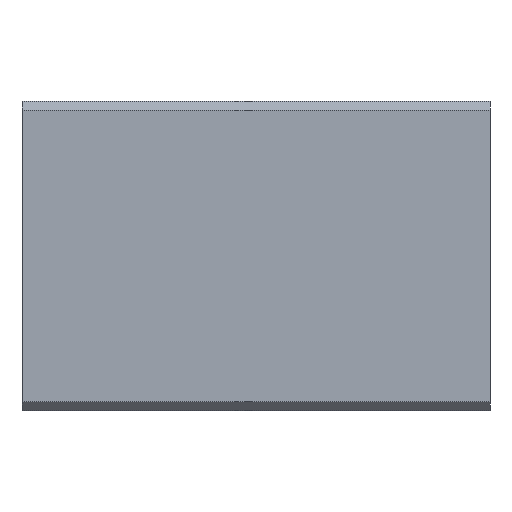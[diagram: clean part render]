
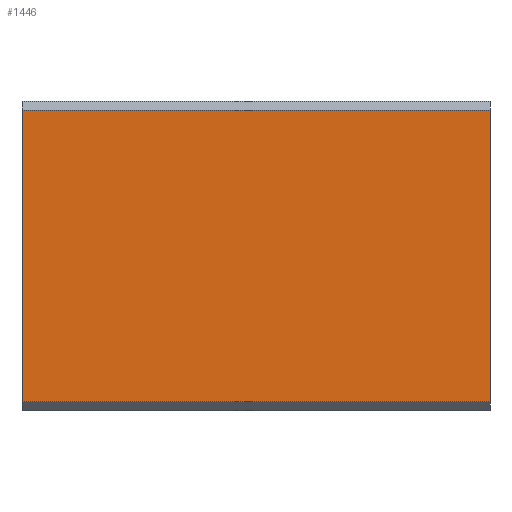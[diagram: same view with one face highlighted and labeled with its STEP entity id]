
A CAD part, front view. The second image highlights one B-rep face of the part: STEP entity #1446.
In plain terms, the highlighted planar face has unit normal (0, -1, 0).
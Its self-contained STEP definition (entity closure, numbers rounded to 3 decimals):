
#184 = LINE ( 'NONE', #6356, #2453 ) ;
#695 = EDGE_LOOP ( 'NONE', ( #10585, #1839, #9219, #3349 ) ) ;
#1000 = PLANE ( 'NONE',  #6935 ) ;
#1037 = CARTESIAN_POINT ( 'NONE',  ( 53., -17.5, 16.5 ) ) ;
#1110 = CARTESIAN_POINT ( 'NONE',  ( 53., -17.5, -16.5 ) ) ;
#1119 = DIRECTION ( 'NONE',  ( -1., 0., 0. ) ) ;
#1178 = LINE ( 'NONE', #1037, #5335 ) ;
#1213 = VERTEX_POINT ( 'NONE', #9783 ) ;
#1446 = ADVANCED_FACE ( 'NONE', ( #3920 ), #1000, .F. ) ;
#1554 = DIRECTION ( 'NONE',  ( 0., 1., 0. ) ) ;
#1839 = ORIENTED_EDGE ( 'NONE', *, *, #8348, .T. ) ;
#2036 = EDGE_CURVE ( 'NONE', #6827, #7630, #6531, .T. ) ;
#2453 = VECTOR ( 'NONE', #6409, 1000. ) ;
#2885 = CARTESIAN_POINT ( 'NONE',  ( 0., -17.5, 17.5 ) ) ;
#3035 = LINE ( 'NONE', #2885, #7244 ) ;
#3088 = DIRECTION ( 'NONE',  ( 0., 0., 1. ) ) ;
#3349 = ORIENTED_EDGE ( 'NONE', *, *, #7661, .T. ) ;
#3467 = EDGE_CURVE ( 'NONE', #1213, #8969, #3035, .T. ) ;
#3920 = FACE_OUTER_BOUND ( 'NONE', #695, .T. ) ;
#5335 = VECTOR ( 'NONE', #1119, 1000. ) ;
#6356 = CARTESIAN_POINT ( 'NONE',  ( 53., -17.5, -16.5 ) ) ;
#6384 = CARTESIAN_POINT ( 'NONE',  ( 0., -17.5, -16.5 ) ) ;
#6409 = DIRECTION ( 'NONE',  ( 1., 0., 0. ) ) ;
#6531 = LINE ( 'NONE', #8814, #8518 ) ;
#6827 = VERTEX_POINT ( 'NONE', #7103 ) ;
#6935 = AXIS2_PLACEMENT_3D ( 'NONE', #9036, #1554, #3088 ) ;
#7103 = CARTESIAN_POINT ( 'NONE',  ( 53., -17.5, 16.5 ) ) ;
#7155 = DIRECTION ( 'NONE',  ( 0., 0., -1. ) ) ;
#7244 = VECTOR ( 'NONE', #7155, 1000. ) ;
#7630 = VERTEX_POINT ( 'NONE', #1110 ) ;
#7661 = EDGE_CURVE ( 'NONE', #6827, #1213, #1178, .T. ) ;
#8348 = EDGE_CURVE ( 'NONE', #8969, #7630, #184, .T. ) ;
#8518 = VECTOR ( 'NONE', #10475, 1000. ) ;
#8814 = CARTESIAN_POINT ( 'NONE',  ( 53., -17.5, 17.5 ) ) ;
#8969 = VERTEX_POINT ( 'NONE', #6384 ) ;
#9036 = CARTESIAN_POINT ( 'NONE',  ( 53., -17.5, 17.5 ) ) ;
#9219 = ORIENTED_EDGE ( 'NONE', *, *, #2036, .F. ) ;
#9783 = CARTESIAN_POINT ( 'NONE',  ( 0., -17.5, 16.5 ) ) ;
#10475 = DIRECTION ( 'NONE',  ( 0., 0., -1. ) ) ;
#10585 = ORIENTED_EDGE ( 'NONE', *, *, #3467, .T. ) ;
